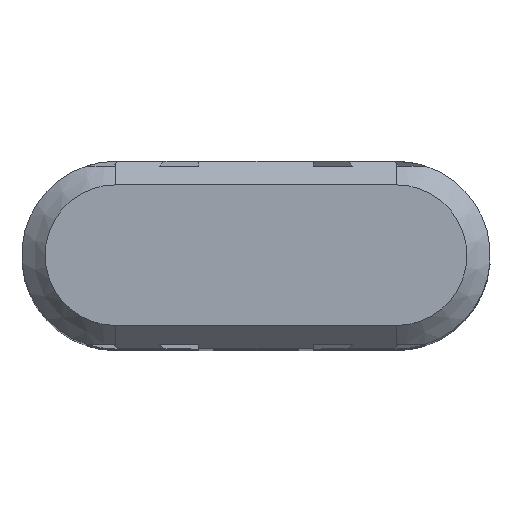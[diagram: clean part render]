
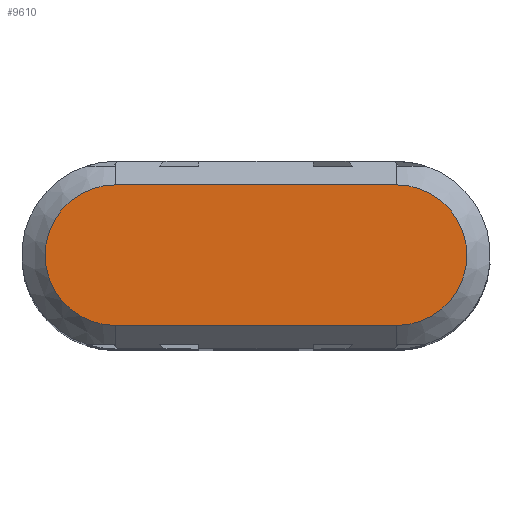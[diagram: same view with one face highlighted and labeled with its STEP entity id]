
A CAD part, top view. The second image highlights one B-rep face of the part: STEP entity #9610.
In plain terms, the highlighted planar face has unit normal (0, 0, 1).
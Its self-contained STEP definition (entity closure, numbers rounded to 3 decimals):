
#9200=CARTESIAN_POINT('',(13.869,4.044,-32.4));
#9210=DIRECTION('',(0.,0.,-1.));
#9220=DIRECTION('',(-1.,0.,0.));
#9230=AXIS2_PLACEMENT_3D('',#9200,#9210,#9220);
#9240=PLANE('',#9230);
#9250=CARTESIAN_POINT('',(13.869,1.044,-32.4));
#9260=DIRECTION('',(1.,0.,0.));
#9270=VECTOR('',#9260,1.);
#9280=LINE('',#9250,#9270);
#9290=CARTESIAN_POINT('',(7.869,1.044,-32.4));
#9300=VERTEX_POINT('',#9290);
#9310=CARTESIAN_POINT('',(19.869,1.044,-32.4));
#9320=VERTEX_POINT('',#9310);
#9330=EDGE_CURVE('',#9300,#9320,#9280,.T.);
#9340=ORIENTED_EDGE('',*,*,#9330,.T.);
#9350=CARTESIAN_POINT('',(7.869,4.044,-32.4));
#9360=DIRECTION('',(0.,0.,-1.));
#9370=DIRECTION('',(-1.,0.,0.));
#9380=AXIS2_PLACEMENT_3D('',#9350,#9360,#9370);
#9390=CIRCLE('',#9380,3.);
#9400=CARTESIAN_POINT('',(7.869,7.044,-32.4));
#9410=VERTEX_POINT('',#9400);
#9420=EDGE_CURVE('',#9300,#9410,#9390,.T.);
#9430=ORIENTED_EDGE('',*,*,#9420,.F.);
#9440=CARTESIAN_POINT('',(13.869,7.044,-32.4));
#9450=DIRECTION('',(1.,0.,0.));
#9460=VECTOR('',#9450,1.);
#9470=LINE('',#9440,#9460);
#9480=CARTESIAN_POINT('',(19.869,7.044,-32.4));
#9490=VERTEX_POINT('',#9480);
#9500=EDGE_CURVE('',#9410,#9490,#9470,.T.);
#9510=ORIENTED_EDGE('',*,*,#9500,.F.);
#9520=CARTESIAN_POINT('',(19.869,4.044,-32.4));
#9530=DIRECTION('',(0.,0.,-1.));
#9540=DIRECTION('',(-1.,0.,0.));
#9550=AXIS2_PLACEMENT_3D('',#9520,#9530,#9540);
#9560=CIRCLE('',#9550,3.);
#9570=EDGE_CURVE('',#9490,#9320,#9560,.T.);
#9580=ORIENTED_EDGE('',*,*,#9570,.F.);
#9590=EDGE_LOOP('',(#9580,#9510,#9430,#9340));
#9600=FACE_OUTER_BOUND('',#9590,.T.);
#9610=ADVANCED_FACE('',(#9600),#9240,.F.);
